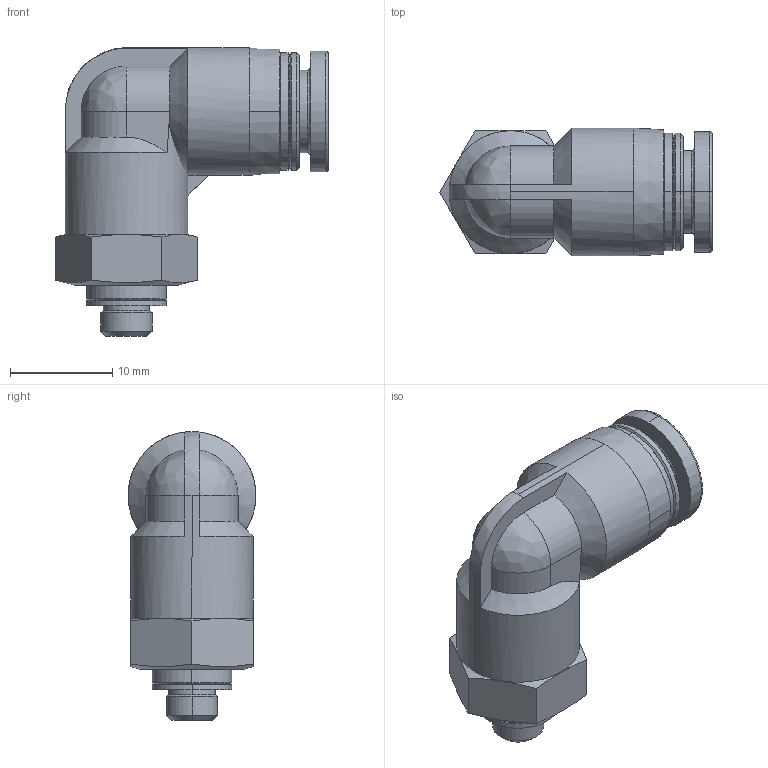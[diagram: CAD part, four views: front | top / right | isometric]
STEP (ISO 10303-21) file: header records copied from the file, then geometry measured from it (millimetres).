
FILE_DESCRIPTION (( 'STEP AP214' ), '1' );
FILE_NAME ('APL6-M5.STEP', '2019-12-05T06:01:40', ( '微软用户' ), ( '微软中国' ), 'SwSTEP 2.0', 'SolidWorks 2016', '' );
FILE_SCHEMA (( 'AUTOMOTIVE_DESIGN' ));
Length unit declared in the file: millimetre
Products named in the file (1): APL6-M5
Bounding box: 26.68 x 12.5 x 28.25 mm (x, y, z)
Volume: 3463 mm3; surface area: 2151.3 mm2
Topology: 1 solids, 1 shells, 87 faces, 201 edges, 124 vertices
Faces by surface type: cylinder 28, cone 27, plane 25, bspline 7
Entity records: 3001 total; most frequent: CARTESIAN_POINT 1049, ORIENTED_EDGE 402, DIRECTION 398, EDGE_CURVE 201, AXIS2_PLACEMENT_3D 163, VERTEX_POINT 124, EDGE_LOOP 95, FACE_OUTER_BOUND 87
